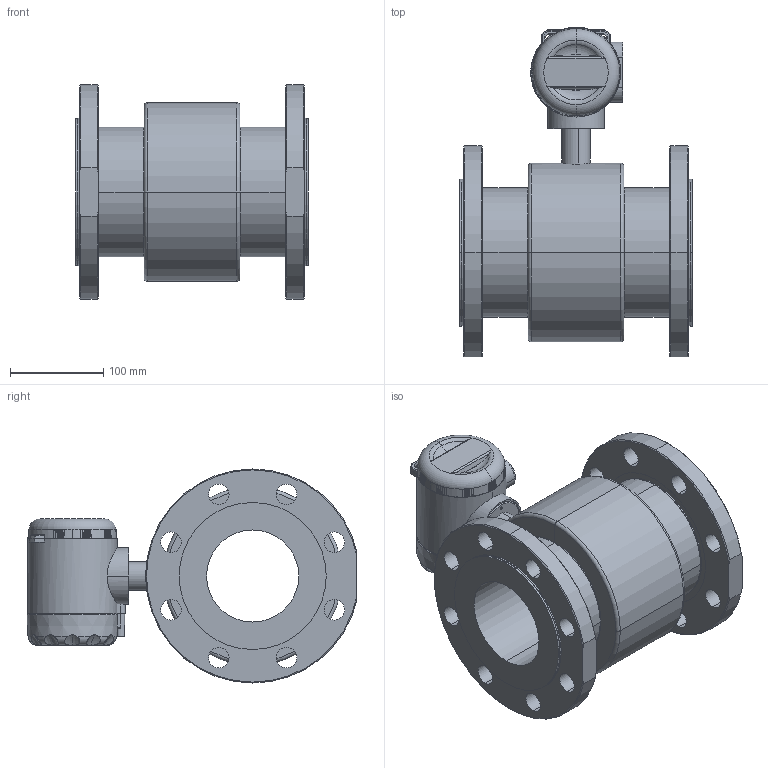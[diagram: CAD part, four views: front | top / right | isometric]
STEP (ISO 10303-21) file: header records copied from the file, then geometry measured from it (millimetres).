
FILE_DESCRIPTION (( 'STEP AP214' ), '1' );
FILE_NAME ('ﾏ頸褞ⅴ ﾏﾐﾎ100.STEP', '2021-07-23T12:48:09', ( '' ), ( '' ), 'SwSTEP 2.0', 'SolidWorks 2016', '' );
FILE_SCHEMA (( 'AUTOMOTIVE_DESIGN' ));
Length unit declared in the file: millimetre
Products named in the file (1): ﾏ頸褞ⅴ ﾏﾐﾎ100
Bounding box: 250 x 354.34 x 230 mm (x, y, z)
Surface area: 462427.3 mm2 (no closed solid volume)
Topology: 0 solids, 20 shells, 438 faces, 1447 edges, 996 vertices
Faces by surface type: plane 144, cylinder 119, cone 111, torus 55, bspline 9
Entity records: 22529 total; most frequent: CARTESIAN_POINT 5166, DIRECTION 2794, ORIENTED_EDGE 2245, EDGE_CURVE 1447, AXIS2_PLACEMENT_3D 1085, VERTEX_POINT 996, CIRCLE 655, LINE 624
